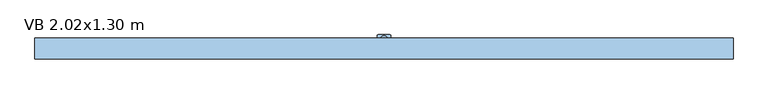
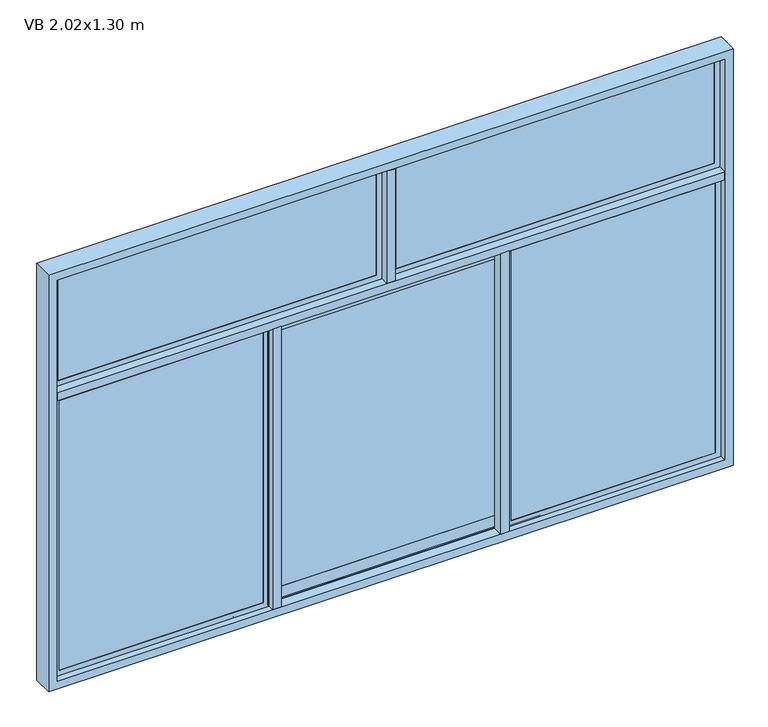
"""IFC4 building model written with IfcOpenShell, lengths in millimetres: window geometry, Ventana baja corrediza 3 cuerpos : VB 2.02x1.30 m."""

from ifc_helpers import new_model, si_unit, point, frame, frame_2d, origin, place, context, project, spatial, polyline, circle_curve, trimmed, segment, composite_curve, outline, extrude, faceted_brep, source, transform, mapped, element, save


def vb_2_02x1_30_m_f14caf41(model_context):
    return source(origin(), model_context, "Body", "SolidModel", [
        extrude(outline(composite_curve([segment(trimmed(circle_curve(frame_2d((0.0, 28.2738075)), 9.1519646), [point((9.1519646, 28.2738075))], [point((-9.1519646, 28.2738075))], False, "CARTESIAN"), True, "CONTINUOUS"), segment(trimmed(circle_curve(frame_2d((0.0, 28.2738075)), 9.1519646), [point((-9.1519646, 28.2738075))], [point((9.1519646, 28.2738075))], False, "CARTESIAN"), True, "CONTINUOUS")], self_intersect=False)), frame((0.0, 0.0, 966.1518437), z_axis=(0.0, 0.0, 1.0), x_axis=(1.0, 0.0, 0.0)), (0.0, 0.0, 1.0), 3.4852564),
        extrude(outline(composite_curve([segment(trimmed(circle_curve(frame_2d((0.0, 28.2738075)), 4.1308937), [point((4.1308937, 28.2738075))], [point((-4.1308937, 28.2738075))], False, "CARTESIAN"), True, "CONTINUOUS"), segment(trimmed(circle_curve(frame_2d((0.0, 28.2738075)), 4.1308937), [point((-4.1308937, 28.2738075))], [point((4.1308937, 28.2738075))], False, "CARTESIAN"), True, "CONTINUOUS")], self_intersect=False)), frame((0.0, 0.0, 953.913316), z_axis=(0.0, 0.0, 1.0), x_axis=(1.0, 0.0, 0.0)), (0.0, 0.0, 1.0), 12.2385277),
        extrude(outline(composite_curve([segment(trimmed(circle_curve(frame_2d((0.0, 28.2738075)), 7.026694), [point((7.026694, 28.2738075))], [point((-7.026694, 28.2738075))], False, "CARTESIAN"), True, "CONTINUOUS"), segment(trimmed(circle_curve(frame_2d((0.0, 28.2738075)), 7.026694), [point((-7.026694, 28.2738075))], [point((7.026694, 28.2738075))], False, "CARTESIAN"), True, "CONTINUOUS")], self_intersect=False)), frame((0.0, 0.0, 932.1776083), z_axis=(0.0, 0.0, 1.0), x_axis=(1.0, 0.0, 0.0)), (0.0, 0.0, 1.0), 21.7357077),
        extrude(outline(composite_curve([segment(trimmed(circle_curve(frame_2d((945.1933283, 18.01572)), 1.98428), [point((945.1933283, 20.0))], [point((947.1776083, 18.01572))], False, "CARTESIAN"), True, "CONTINUOUS"), segment(polyline([(947.1776083, 18.01572), (947.1776083, -18.01572)]), True, "CONTINUOUS"), segment(trimmed(circle_curve(frame_2d((945.1933283, -18.01572)), 1.98428), [point((947.1776083, -18.01572))], [point((945.1933283, -20.0))], False, "CARTESIAN"), True, "CONTINUOUS"), segment(polyline([(945.1933283, -20.0), (932.1776083, -20.0), (932.1776083, 20.0), (945.1933283, 20.0)]), True, "CONTINUOUS")], self_intersect=False), holes=[composite_curve([segment(trimmed(circle_curve(frame_2d((940.5771467, 13.3353779)), 1.6750611), [point((940.5771467, 15.0104391))], [point((940.5771467, 11.6603168))], True, "CARTESIAN"), True, "CONTINUOUS"), segment(trimmed(circle_curve(frame_2d((940.5771467, 13.3353779)), 1.6750611), [point((940.5771467, 11.6603168))], [point((940.5771467, 15.0104391))], True, "CARTESIAN"), True, "CONTINUOUS")], self_intersect=False), composite_curve([segment(trimmed(circle_curve(frame_2d((940.5771467, -13.3353779)), 1.6750611), [point((940.5771467, -15.0104391))], [point((940.5771467, -11.6603168))], True, "CARTESIAN"), True, "CONTINUOUS"), segment(trimmed(circle_curve(frame_2d((940.5771467, -13.3353779)), 1.6750611), [point((940.5771467, -11.6603168))], [point((940.5771467, -15.0104391))], True, "CARTESIAN"), True, "CONTINUOUS")], self_intersect=False)]), frame((0.0, 15.1098039, 0.0), z_axis=(0.0, 1.0, 0.0), x_axis=(0.0, 0.0, 1.0)), (0.0, 0.0, 1.0), 4.012039),
        extrude(outline(composite_curve([segment(polyline([(-20.0, 15.1098039), (-20.0, 36.2721359)]), True, "CONTINUOUS"), segment(trimmed(circle_curve(frame_2d((-16.1623319, 36.2721359)), 3.8376681), [point((-20.0, 36.2721359))], [point((-16.1623319, 40.1098039))], False, "CARTESIAN"), True, "CONTINUOUS"), segment(polyline([(-16.1623319, 40.1098039), (16.1623319, 40.1098039)]), True, "CONTINUOUS"), segment(trimmed(circle_curve(frame_2d((16.1623319, 36.2721359)), 3.8376681), [point((16.1623319, 40.1098039))], [point((20.0, 36.2721359))], False, "CARTESIAN"), True, "CONTINUOUS"), segment(polyline([(20.0, 36.2721359), (20.0, 15.1098039), (-20.0, 15.1098039)]), True, "CONTINUOUS")], self_intersect=False)), frame((0.0, 0.0, 928.6104688), z_axis=(0.0, 0.0, 1.0), x_axis=(1.0, 0.0, 0.0)), (0.0, 0.0, 1.0), 3.5671395),
        extrude(outline(polyline([(-349.1666667, 13.9001865), (349.1666667, 13.9001865), (349.1666667, 4.4001865), (-349.1666667, 4.4001865), (-349.1666667, 13.9001865)])), frame((0.0, 0.0, 948.9759668), z_axis=(0.0, 0.0, 1.0), x_axis=(1.0, 0.0, 0.0)), (0.0, 0.0, 1.0), 827.0480665),
        extrude(outline(polyline([(-352.7604167, -1.2096174), (-352.7604167, -10.7096174), (-981.40625, -10.7096174), (-981.40625, -1.2096174), (-352.7604167, -1.2096174)])), frame((0.0, 0.0, 928.59375), z_axis=(0.0, 0.0, 1.0), x_axis=(1.0, 0.0, 0.0)), (0.0, 0.0, 1.0), 867.8125),
        extrude(outline(polyline([(981.40625, -1.2096174), (981.40625, -10.7096174), (352.7604167, -10.7096174), (352.7604167, -1.2096174), (981.40625, -1.2096174)])), frame((0.0, 0.0, 928.59375), z_axis=(0.0, 0.0, 1.0), x_axis=(1.0, 0.0, 0.0)), (0.0, 0.0, 1.0), 867.8125),
        extrude(outline(polyline([(-16.09375, 4.75), (-16.09375, -4.75), (-981.40625, -4.75), (-981.40625, 4.75), (-16.09375, 4.75)])), frame((0.0, 0.0, 1828.59375), z_axis=(0.0, 0.0, 1.0), x_axis=(1.0, 0.0, 0.0)), (0.0, 0.0, 1.0), 342.8125),
        extrude(outline(polyline([(981.40625, 4.75), (981.40625, -4.75), (16.09375, -4.75), (16.09375, 4.75), (981.40625, 4.75)])), frame((0.0, 0.0, 1828.59375), z_axis=(0.0, 0.0, 1.0), x_axis=(1.0, 0.0, 0.0)), (0.0, 0.0, 1.0), 342.8125),
        extrude(outline(composite_curve([segment(polyline([(10.2821926, 1800.0), (10.2821926, 1789.1628008)]), True, "CONTINUOUS"), segment(trimmed(circle_curve(frame_2d((9.1502142, 1789.8593269)), 1.3291064), [point((10.2821926, 1789.1628008))], [point((8.0182357, 1789.1628008))], False, "CARTESIAN"), True, "CONTINUOUS"), segment(polyline([(8.0182357, 1789.1628008), (8.0182357, 1797.9830324), (0.0, 1797.9830324), (0.0, 1800.0), (10.2821926, 1800.0)]), True, "CONTINUOUS")], self_intersect=False)), frame((-968.2282521, 0.0, 0.0), z_axis=(1.0, 0.0, 0.0), x_axis=(0.0, 1.0, 0.0)), (0.0, 0.0, 1.0), 1936.4565041),
        extrude(outline(polyline([(12.0251865, 1779.6177832), (12.0251865, 1796.3895312), (15.1098039, 1796.3895312), (15.1098039, 1762.8460353), (13.9001865, 1762.8460353), (13.9001865, 1776.0240332), (4.4001865, 1776.0240332), (4.4001865, 1762.8460353), (3.190569, 1762.8460353), (3.190569, 1796.3895312), (6.2751865, 1796.3895312), (6.2751865, 1779.6177832), (12.0251865, 1779.6177832)])), frame((-349.1666667, 0.0, 0.0), z_axis=(1.0, 0.0, 0.0), x_axis=(0.0, 1.0, 0.0)), (0.0, 0.0, 1.0), 698.3333333),
        extrude(outline(polyline([(6.9867702, 1780.2900719), (6.9867702, 1789.8233667), (9.1501865, 1787.6599504), (11.3136028, 1789.8233667), (11.3136028, 1780.2900719), (9.1501865, 1782.4534882), (6.9867702, 1780.2900719)])), frame((-349.1666667, 0.0, 0.0), z_axis=(1.0, 0.0, 0.0), x_axis=(0.0, 1.0, 0.0)), (0.0, 0.0, 1.0), 698.3333333),
        faceted_brep([(-365.9384146, 0.0, 1783.2282521), (-365.9384146, 0.0, 941.7717479), (-365.9384146, -1.2096174, 941.7717479), (-365.9384146, -1.2096174, 1783.2282521), (-352.7604167, -1.2096174, 1796.40625), (-352.7604167, -1.2096174, 928.59375), (-352.7604167, -10.7096174, 928.59375), (-352.7604167, -10.7096174, 1796.40625), (-365.9384146, -10.7096174, 1783.2282521), (-365.9384146, -10.7096174, 941.7717479), (-365.9384146, -11.9192349, 941.7717479), (-365.9384146, -11.9192349, 1783.2282521), (-349.1666667, -11.9192349, 1800.0), (-349.1666667, -11.9192349, 925.0), (-349.1666667, 0.0, 925.0), (-349.1666667, 0.0, 1800.0), (-968.2282521, 0.0, 941.7717479), (-968.2282521, -1.2096174, 941.7717479), (-981.40625, -1.2096174, 928.59375), (-981.40625, -10.7096174, 928.59375), (-968.2282521, -10.7096174, 941.7717479), (-968.2282521, -11.9192349, 941.7717479), (-985.0, -11.9192349, 925.0), (-985.0, 0.0, 925.0), (-968.2282521, 0.0, 1783.2282521), (-968.2282521, -1.2096174, 1783.2282521), (-981.40625, -1.2096174, 1796.40625), (-981.40625, -10.7096174, 1796.40625), (-968.2282521, -10.7096174, 1783.2282521), (-968.2282521, -11.9192349, 1783.2282521), (-985.0, -11.9192349, 1800.0), (-985.0, 0.0, 1800.0)], [[[0, 1, 2, 3]], [[4, 5, 6, 7]], [[8, 9, 10, 11]], [[12, 13, 14, 15]], [[1, 16, 17, 2]], [[5, 18, 19, 6]], [[9, 20, 21, 10]], [[13, 22, 23, 14]], [[16, 24, 25, 17]], [[18, 26, 27, 19]], [[20, 28, 29, 21]], [[22, 30, 31, 23]], [[15, 14, 23, 31], [1, 0, 24, 16]], [[24, 0, 3, 25]], [[5, 4, 26, 18], [3, 2, 17, 25]], [[26, 4, 7, 27]], [[7, 6, 19, 27], [9, 8, 28, 20]], [[28, 8, 11, 29]], [[13, 12, 30, 22], [11, 10, 21, 29]], [[30, 12, 15, 31]]]),
        faceted_brep([(365.9384146, -1.2096174, 1783.2282521), (365.9384146, -1.2096174, 941.7717479), (365.9384146, 0.0, 941.7717479), (365.9384146, 0.0, 1783.2282521), (352.7604167, -10.7096174, 1796.40625), (352.7604167, -10.7096174, 928.59375), (352.7604167, -1.2096174, 928.59375), (352.7604167, -1.2096174, 1796.40625), (365.9384146, -11.9192349, 1783.2282521), (365.9384146, -11.9192349, 941.7717479), (365.9384146, -10.7096174, 941.7717479), (365.9384146, -10.7096174, 1783.2282521), (349.1666667, 0.0, 1800.0), (349.1666667, 0.0, 925.0), (349.1666667, -11.9192349, 925.0), (349.1666667, -11.9192349, 1800.0), (968.2282521, -1.2096174, 941.7717479), (968.2282521, 0.0, 941.7717479), (981.40625, -10.7096174, 928.59375), (981.40625, -1.2096174, 928.59375), (968.2282521, -11.9192349, 941.7717479), (968.2282521, -10.7096174, 941.7717479), (985.0, 0.0, 925.0), (985.0, -11.9192349, 925.0), (968.2282521, -1.2096174, 1783.2282521), (968.2282521, 0.0, 1783.2282521), (981.40625, -10.7096174, 1796.40625), (981.40625, -1.2096174, 1796.40625), (968.2282521, -11.9192349, 1783.2282521), (968.2282521, -10.7096174, 1783.2282521), (985.0, 0.0, 1800.0), (985.0, -11.9192349, 1800.0)], [[[0, 1, 2, 3]], [[4, 5, 6, 7]], [[8, 9, 10, 11]], [[12, 13, 14, 15]], [[1, 16, 17, 2]], [[5, 18, 19, 6]], [[9, 20, 21, 10]], [[13, 22, 23, 14]], [[16, 24, 25, 17]], [[18, 26, 27, 19]], [[20, 28, 29, 21]], [[22, 30, 31, 23]], [[13, 12, 30, 22], [3, 2, 17, 25]], [[24, 0, 3, 25]], [[7, 6, 19, 27], [1, 0, 24, 16]], [[26, 4, 7, 27]], [[5, 4, 26, 18], [11, 10, 21, 29]], [[28, 8, 11, 29]], [[15, 14, 23, 31], [9, 8, 28, 20]], [[30, 12, 15, 31]]]),
        faceted_brep([(-985.0, 5.9596174, 2175.0), (-985.0, 5.9596174, 1825.0), (-985.0, -5.9596174, 1825.0), (-985.0, -5.9596174, 2175.0), (-968.2282521, 4.75, 2158.2282521), (-968.2282521, 4.75, 1841.7717479), (-968.2282521, 5.9596174, 1841.7717479), (-968.2282521, 5.9596174, 2158.2282521), (-981.40625, -4.75, 2171.40625), (-981.40625, -4.75, 1828.59375), (-981.40625, 4.75, 1828.59375), (-981.40625, 4.75, 2171.40625), (-968.2282521, -5.9596174, 2158.2282521), (-968.2282521, -5.9596174, 1841.7717479), (-968.2282521, -4.75, 1841.7717479), (-968.2282521, -4.75, 2158.2282521), (-12.5, 5.9596174, 1825.0), (-12.5, -5.9596174, 1825.0), (-29.2717479, 4.75, 1841.7717479), (-29.2717479, 5.9596174, 1841.7717479), (-16.09375, -4.75, 1828.59375), (-16.09375, 4.75, 1828.59375), (-29.2717479, -5.9596174, 1841.7717479), (-29.2717479, -4.75, 1841.7717479), (-12.5, 5.9596174, 2175.0), (-12.5, -5.9596174, 2175.0), (-29.2717479, 4.75, 2158.2282521), (-29.2717479, 5.9596174, 2158.2282521), (-16.09375, -4.75, 2171.40625), (-16.09375, 4.75, 2171.40625), (-29.2717479, -5.9596174, 2158.2282521), (-29.2717479, -4.75, 2158.2282521)], [[[0, 1, 2, 3]], [[4, 5, 6, 7]], [[8, 9, 10, 11]], [[12, 13, 14, 15]], [[1, 16, 17, 2]], [[5, 18, 19, 6]], [[9, 20, 21, 10]], [[13, 22, 23, 14]], [[16, 24, 25, 17]], [[18, 26, 27, 19]], [[20, 28, 29, 21]], [[22, 30, 31, 23]], [[24, 0, 3, 25]], [[1, 0, 24, 16], [7, 6, 19, 27]], [[26, 4, 7, 27]], [[11, 10, 21, 29], [5, 4, 26, 18]], [[28, 8, 11, 29]], [[9, 8, 28, 20], [15, 14, 23, 31]], [[30, 12, 15, 31]], [[3, 2, 17, 25], [13, 12, 30, 22]]]),
        faceted_brep([(16.09375, -4.75, 2171.40625), (16.09375, -4.75, 1828.59375), (16.09375, 4.75, 1828.59375), (16.09375, 4.75, 2171.40625), (29.2717479, -5.9596174, 2158.2282521), (29.2717479, -5.9596174, 1841.7717479), (29.2717479, -4.75, 1841.7717479), (29.2717479, -4.75, 2158.2282521), (12.5, 5.9596174, 2175.0), (12.5, 5.9596174, 1825.0), (12.5, -5.9596174, 1825.0), (12.5, -5.9596174, 2175.0), (29.2717479, 4.75, 2158.2282521), (29.2717479, 4.75, 1841.7717479), (29.2717479, 5.9596174, 1841.7717479), (29.2717479, 5.9596174, 2158.2282521), (981.40625, -4.75, 1828.59375), (981.40625, 4.75, 1828.59375), (968.2282521, -5.9596174, 1841.7717479), (968.2282521, -4.75, 1841.7717479), (985.0, 5.9596174, 1825.0), (985.0, -5.9596174, 1825.0), (968.2282521, 4.75, 1841.7717479), (968.2282521, 5.9596174, 1841.7717479), (981.40625, -4.75, 2171.40625), (981.40625, 4.75, 2171.40625), (968.2282521, -5.9596174, 2158.2282521), (968.2282521, -4.75, 2158.2282521), (985.0, 5.9596174, 2175.0), (985.0, -5.9596174, 2175.0), (968.2282521, 4.75, 2158.2282521), (968.2282521, 5.9596174, 2158.2282521)], [[[0, 1, 2, 3]], [[4, 5, 6, 7]], [[8, 9, 10, 11]], [[12, 13, 14, 15]], [[1, 16, 17, 2]], [[5, 18, 19, 6]], [[9, 20, 21, 10]], [[13, 22, 23, 14]], [[16, 24, 25, 17]], [[18, 26, 27, 19]], [[20, 28, 29, 21]], [[22, 30, 31, 23]], [[24, 0, 3, 25]], [[1, 0, 24, 16], [7, 6, 19, 27]], [[26, 4, 7, 27]], [[11, 10, 21, 29], [5, 4, 26, 18]], [[28, 8, 11, 29]], [[9, 8, 28, 20], [15, 14, 23, 31]], [[30, 12, 15, 31]], [[3, 2, 17, 25], [13, 12, 30, 22]]]),
        extrude(outline(polyline([(12.5, 30.15), (12.5, -30.15), (-12.5, -30.15), (-12.5, 30.15), (12.5, 30.15)])), frame((0.0, 0.0, 1825.0), z_axis=(0.0, 0.0, 1.0), x_axis=(1.0, 0.0, 0.0)), (0.0, 0.0, 1.0), 350.0),
        extrude(outline(polyline([(-324.1666667, 0.0), (-324.1666667, -30.15), (-349.1666667, -30.15), (-349.1666667, 0.0), (-324.1666667, 0.0)])), frame((0.0, 0.0, 925.0), z_axis=(0.0, 0.0, 1.0), x_axis=(1.0, 0.0, 0.0)), (0.0, 0.0, 1.0), 875.0),
        extrude(outline(polyline([(349.1666667, 0.0), (349.1666667, -30.15), (324.1666667, -30.15), (324.1666667, 0.0), (349.1666667, 0.0)])), frame((0.0, 0.0, 925.0), z_axis=(0.0, 0.0, 1.0), x_axis=(1.0, 0.0, 0.0)), (0.0, 0.0, 1.0), 875.0),
        extrude(outline(polyline([(985.0, -30.15), (-985.0, -30.15), (-985.0, 30.15), (985.0, 30.15), (985.0, -30.15)])), frame((0.0, 0.0, 1800.0), z_axis=(0.0, 0.0, 1.0), x_axis=(1.0, 0.0, 0.0)), (0.0, 0.0, 1.0), 25.0),
        extrude(outline(polyline([(2200.0, -1010.0), (900.0, -1010.0), (900.0, 1010.0), (2200.0, 1010.0), (2200.0, -1010.0)]), holes=[polyline([(925.0, -985.0), (2175.0, -985.0), (2175.0, 985.0), (925.0, 985.0), (925.0, -985.0)])]), frame((0.0, -30.15, 0.0), z_axis=(0.0, 1.0, 0.0), x_axis=(0.0, 0.0, 1.0)), (0.0, 0.0, 1.0), 60.3),
        extrude(outline(polyline([(3.190569, 962.1539647), (4.4001865, 962.1539647), (4.4001865, 948.9759668), (13.9001865, 948.9759668), (13.9001865, 962.1539647), (15.1098039, 962.1539647), (15.1098039, 928.6104688), (12.0251865, 928.6104688), (12.0251865, 945.3822168), (6.2751865, 945.3822168), (6.2751865, 928.6104688), (3.190569, 928.6104688), (3.190569, 962.1539647)])), frame((-349.1666667, 0.0, 0.0), z_axis=(1.0, 0.0, 0.0), x_axis=(0.0, 1.0, 0.0)), (0.0, 0.0, 1.0), 698.3333333),
        extrude(outline(polyline([(9.1501865, 942.5465118), (11.3136028, 944.7099281), (11.3136028, 935.1766333), (9.1501865, 937.3400496), (6.9867702, 935.1766333), (6.9867702, 944.7099281), (9.1501865, 942.5465118)])), frame((-349.1666667, 0.0, 0.0), z_axis=(1.0, 0.0, 0.0), x_axis=(0.0, 1.0, 0.0)), (0.0, 0.0, 1.0), 698.3333333),
        extrude(outline(composite_curve([segment(polyline([(10.2821926, 925.0), (0.0, 925.0), (0.0, 927.0169676), (8.0182357, 927.0169676), (8.0182357, 935.8371992)]), True, "CONTINUOUS"), segment(trimmed(circle_curve(frame_2d((9.1502142, 935.1406731)), 1.3291064), [point((8.0182357, 935.8371992))], [point((10.2821926, 935.8371992))], False, "CARTESIAN"), True, "CONTINUOUS"), segment(polyline([(10.2821926, 935.8371992), (10.2821926, 925.0)]), True, "CONTINUOUS")], self_intersect=False)), frame((-968.2282521, 0.0, 0.0), z_axis=(1.0, 0.0, 0.0), x_axis=(0.0, 1.0, 0.0)), (0.0, 0.0, 1.0), 1936.4565041),
    ])


if __name__ == "__main__":
    model = new_model("IFC4")
    model_context = context("Model", 3, world=origin())
    ifc_project = project(units=[si_unit("LENGTHUNIT", "METRE", prefix="MILLI")], contexts=[model_context])
    site = spatial("IfcSite", under=ifc_project)
    building = spatial("IfcBuilding", under=site)
    placement = place(None, origin())
    vb_2_02x1_30_m_shape = vb_2_02x1_30_m_f14caf41(model_context)
    element("IfcWindow", 1, ObjectType="Ventana baja corrediza 3 cuerpos : VB 2.02x1.30 m", at=placement, inside=building, context=model_context, shape_type="MappedRepresentation", body=[
        mapped(vb_2_02x1_30_m_shape, transform((0.0, 0.0, 0.0), x_axis=(1.0, 0.0, 0.0), y_axis=(0.0, 1.0, 0.0), z_axis=(0.0, 0.0, 1.0))),
    ])
    save(model, "model.ifc")
